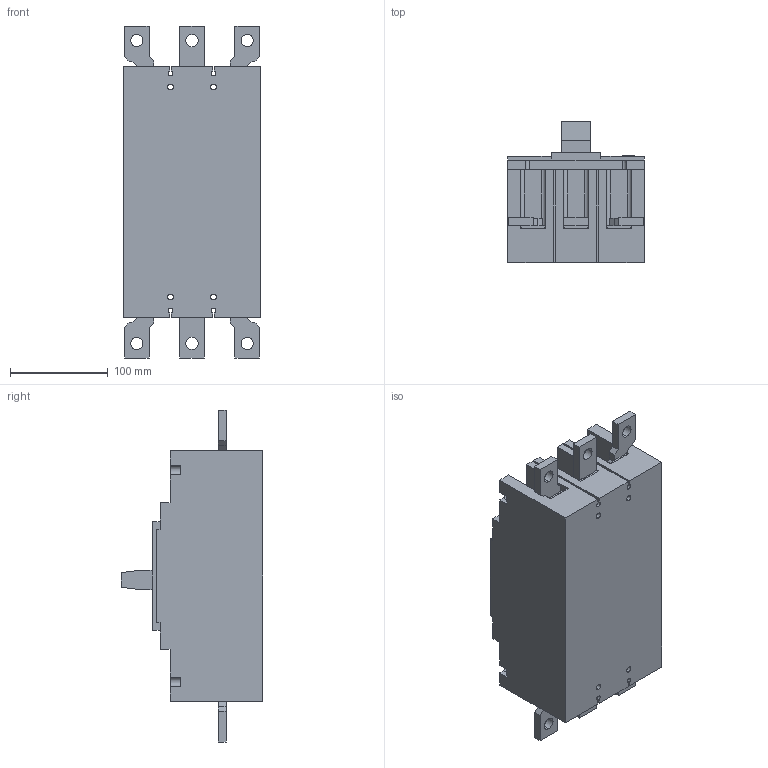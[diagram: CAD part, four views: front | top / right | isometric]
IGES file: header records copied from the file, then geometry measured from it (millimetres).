
Start section:  PTC IGES file: 11-metasol-elcb-400af-3p-3bus.igs
Global section: file name: 11-metasol-elcb-400af-3p-3bus.igs; native system: Pro/ENGINEER by Parametric Technology Corporation; preprocessor: 2010280; author: mgkimb; organization: Unknown; date: 20131029.143156; units: millimetre
Bounding box: 140 x 145 x 340 mm (x, y, z)
Surface area: 226981.8 mm2 (no closed solid volume)
Topology: 0 solids, 0 shells, 336 faces, 1784 edges, 1784 vertices
Faces by surface type: bspline 230, revolution 106
